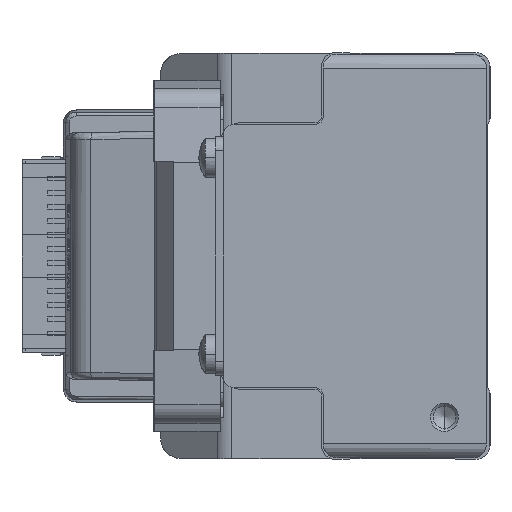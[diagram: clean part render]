
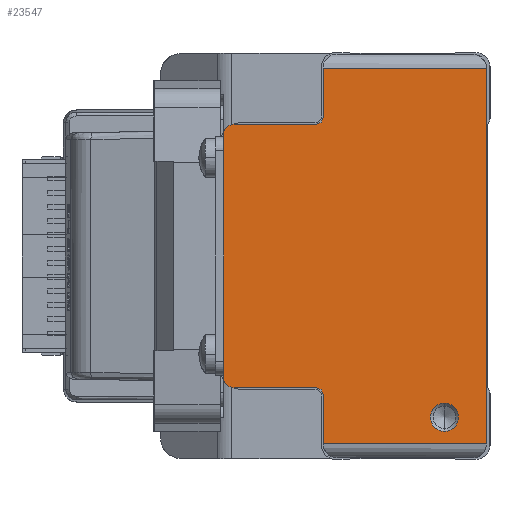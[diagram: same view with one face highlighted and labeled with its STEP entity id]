
A CAD part, left-side view. The second image highlights one B-rep face of the part: STEP entity #23547.
In plain terms, the highlighted planar face has unit normal (-1, 0, 0) as drawn and (0, 0, 1) by its records, which use the part's own axes.
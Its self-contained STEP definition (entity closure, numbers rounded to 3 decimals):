
#27 = ORIENTED_EDGE ( 'NONE', *, *, #42735, .T. ) ;
#492 = VERTEX_POINT ( 'NONE', #26947 ) ;
#592 = DIRECTION ( 'NONE',  ( 0., 0., -1. ) ) ;
#1318 = EDGE_CURVE ( 'NONE', #1828, #40674, #41951, .T. ) ;
#1828 = VERTEX_POINT ( 'NONE', #20294 ) ;
#2294 = DIRECTION ( 'NONE',  ( 0., -1., 0. ) ) ;
#2559 = EDGE_CURVE ( 'NONE', #492, #11047, #8257, .T. ) ;
#2671 = EDGE_CURVE ( 'NONE', #13649, #5589, #8998, .T. ) ;
#3736 = CARTESIAN_POINT ( 'NONE',  ( -23., 6.5, 870. ) ) ;
#4644 = LINE ( 'NONE', #24751, #22821 ) ;
#4747 = CIRCLE ( 'NONE', #5434, 1.5 ) ;
#5167 = CARTESIAN_POINT ( 'NONE',  ( -19.8, 24.8, 870. ) ) ;
#5434 = AXIS2_PLACEMENT_3D ( 'NONE', #9965, #33461, #29869 ) ;
#5589 = VERTEX_POINT ( 'NONE', #21310 ) ;
#5630 = FACE_OUTER_BOUND ( 'NONE', #38574, .T. ) ;
#6419 = VECTOR ( 'NONE', #16302, 1000. ) ;
#7315 = LINE ( 'NONE', #38208, #27107 ) ;
#7612 = CARTESIAN_POINT ( 'NONE',  ( 19.8, 24.8, 870. ) ) ;
#8257 = LINE ( 'NONE', #31554, #39043 ) ;
#8937 = PLANE ( 'NONE',  #42290 ) ;
#8998 = CIRCLE ( 'NONE', #26879, 1. ) ;
#9476 = AXIS2_PLACEMENT_3D ( 'NONE', #5167, #28830, #11825 ) ;
#9529 = EDGE_CURVE ( 'NONE', #26273, #5589, #16860, .T. ) ;
#9704 = ORIENTED_EDGE ( 'NONE', *, *, #36059, .T. ) ;
#9964 = AXIS2_PLACEMENT_3D ( 'NONE', #20053, #13366, #40482 ) ;
#9965 = CARTESIAN_POINT ( 'NONE',  ( 17.3, 36.5, 870. ) ) ;
#10251 = ORIENTED_EDGE ( 'NONE', *, *, #42948, .F. ) ;
#10767 = VERTEX_POINT ( 'NONE', #30239 ) ;
#11047 = VERTEX_POINT ( 'NONE', #29695 ) ;
#11825 = DIRECTION ( 'NONE',  ( 1., 0., 0. ) ) ;
#12467 = ORIENTED_EDGE ( 'NONE', *, *, #9529, .T. ) ;
#12799 = VERTEX_POINT ( 'NONE', #26048 ) ;
#13005 = CARTESIAN_POINT ( 'NONE',  ( -17.3, 36.5, 870. ) ) ;
#13366 = DIRECTION ( 'NONE',  ( 0., 0., -1. ) ) ;
#13649 = VERTEX_POINT ( 'NONE', #29256 ) ;
#13653 = CARTESIAN_POINT ( 'NONE',  ( -26.8, 0.5, 870. ) ) ;
#13673 = ORIENTED_EDGE ( 'NONE', *, *, #15281, .T. ) ;
#13786 = DIRECTION ( 'NONE',  ( -1., 0., 0. ) ) ;
#14197 = DIRECTION ( 'NONE',  ( -1., 0., 0. ) ) ;
#14269 = CIRCLE ( 'NONE', #9964, 2. ) ;
#14624 = CARTESIAN_POINT ( 'NONE',  ( 18.8, 36.5, 870. ) ) ;
#14865 = DIRECTION ( 'NONE',  ( 0., 0., 1. ) ) ;
#15281 = EDGE_CURVE ( 'NONE', #44280, #492, #35960, .T. ) ;
#15710 = DIRECTION ( 'NONE',  ( 1., 0., 0. ) ) ;
#15805 = EDGE_CURVE ( 'NONE', #24374, #10767, #20295, .T. ) ;
#16302 = DIRECTION ( 'NONE',  ( 0., 1., 0. ) ) ;
#16860 = LINE ( 'NONE', #41292, #44206 ) ;
#17419 = EDGE_CURVE ( 'NONE', #36663, #25900, #22421, .T. ) ;
#19186 = ORIENTED_EDGE ( 'NONE', *, *, #1318, .T. ) ;
#19373 = CARTESIAN_POINT ( 'NONE',  ( -25., 6.5, 870. ) ) ;
#20053 = CARTESIAN_POINT ( 'NONE',  ( -23., 6.5, 870. ) ) ;
#20294 = CARTESIAN_POINT ( 'NONE',  ( -21., 6.5, 870. ) ) ;
#20295 = LINE ( 'NONE', #33986, #40349 ) ;
#20520 = EDGE_CURVE ( 'NONE', #13649, #26375, #23024, .T. ) ;
#21198 = ORIENTED_EDGE ( 'NONE', *, *, #33054, .T. ) ;
#21310 = CARTESIAN_POINT ( 'NONE',  ( 19.8, 23.8, 870. ) ) ;
#21634 = CIRCLE ( 'NONE', #9476, 1. ) ;
#21766 = LINE ( 'NONE', #33346, #34693 ) ;
#22421 = LINE ( 'NONE', #32290, #35131 ) ;
#22769 = ORIENTED_EDGE ( 'NONE', *, *, #28755, .F. ) ;
#22793 = ORIENTED_EDGE ( 'NONE', *, *, #23546, .T. ) ;
#22819 = DIRECTION ( 'NONE',  ( 1., 0., 0. ) ) ;
#22821 = VECTOR ( 'NONE', #31896, 1000. ) ;
#23024 = LINE ( 'NONE', #33325, #6419 ) ;
#23043 = FACE_BOUND ( 'NONE', #40089, .T. ) ;
#23546 = EDGE_CURVE ( 'NONE', #10767, #36663, #21766, .T. ) ;
#23547 = ADVANCED_FACE ( 'NONE', ( #23043, #5630 ), #8937, .T. ) ;
#24374 = VERTEX_POINT ( 'NONE', #36319 ) ;
#24751 = CARTESIAN_POINT ( 'NONE',  ( 26.8, 24., 870. ) ) ;
#25361 = CARTESIAN_POINT ( 'NONE',  ( -17.3, 38., 870. ) ) ;
#25900 = VERTEX_POINT ( 'NONE', #41337 ) ;
#26048 = CARTESIAN_POINT ( 'NONE',  ( 17.3, 38., 870. ) ) ;
#26273 = VERTEX_POINT ( 'NONE', #35227 ) ;
#26375 = VERTEX_POINT ( 'NONE', #14624 ) ;
#26879 = AXIS2_PLACEMENT_3D ( 'NONE', #7612, #27756, #34938 ) ;
#26947 = CARTESIAN_POINT ( 'NONE',  ( -18.8, 36.5, 870. ) ) ;
#27107 = VECTOR ( 'NONE', #27884, 1000. ) ;
#27756 = DIRECTION ( 'NONE',  ( 0., 0., 1. ) ) ;
#27884 = DIRECTION ( 'NONE',  ( -1., 0., 0. ) ) ;
#28179 = ORIENTED_EDGE ( 'NONE', *, *, #2559, .T. ) ;
#28755 = EDGE_CURVE ( 'NONE', #24374, #11047, #21634, .T. ) ;
#28830 = DIRECTION ( 'NONE',  ( 0., 0., 1. ) ) ;
#29256 = CARTESIAN_POINT ( 'NONE',  ( 18.8, 24.8, 870. ) ) ;
#29695 = CARTESIAN_POINT ( 'NONE',  ( -18.8, 24.8, 870. ) ) ;
#29702 = AXIS2_PLACEMENT_3D ( 'NONE', #3736, #592, #13786 ) ;
#29869 = DIRECTION ( 'NONE',  ( 1., 0., 0. ) ) ;
#30219 = ORIENTED_EDGE ( 'NONE', *, *, #15805, .T. ) ;
#30239 = CARTESIAN_POINT ( 'NONE',  ( -26.8, 23.8, 870. ) ) ;
#30579 = DIRECTION ( 'NONE',  ( -1., 0., 0. ) ) ;
#31554 = CARTESIAN_POINT ( 'NONE',  ( -18.8, 36.5, 870. ) ) ;
#31896 = DIRECTION ( 'NONE',  ( 0., -1., 0. ) ) ;
#32290 = CARTESIAN_POINT ( 'NONE',  ( -26.8, 0.5, 870. ) ) ;
#33054 = EDGE_CURVE ( 'NONE', #26375, #12799, #4747, .T. ) ;
#33148 = ORIENTED_EDGE ( 'NONE', *, *, #20520, .T. ) ;
#33325 = CARTESIAN_POINT ( 'NONE',  ( 18.8, 24.8, 870. ) ) ;
#33346 = CARTESIAN_POINT ( 'NONE',  ( -26.8, 24., 870. ) ) ;
#33461 = DIRECTION ( 'NONE',  ( 0., 0., 1. ) ) ;
#33504 = ORIENTED_EDGE ( 'NONE', *, *, #2671, .F. ) ;
#33986 = CARTESIAN_POINT ( 'NONE',  ( -19.8, 23.8, 870. ) ) ;
#34693 = VECTOR ( 'NONE', #2294, 1000. ) ;
#34938 = DIRECTION ( 'NONE',  ( 1., 0., 0. ) ) ;
#35131 = VECTOR ( 'NONE', #15710, 1000. ) ;
#35227 = CARTESIAN_POINT ( 'NONE',  ( 26.8, 23.8, 870. ) ) ;
#35960 = CIRCLE ( 'NONE', #39556, 1.5 ) ;
#36059 = EDGE_CURVE ( 'NONE', #12799, #44280, #7315, .T. ) ;
#36267 = DIRECTION ( 'NONE',  ( 1., 0., 0. ) ) ;
#36319 = CARTESIAN_POINT ( 'NONE',  ( -19.8, 23.8, 870. ) ) ;
#36663 = VERTEX_POINT ( 'NONE', #13653 ) ;
#36719 = CARTESIAN_POINT ( 'NONE',  ( -26.8, 21.8, 870. ) ) ;
#38208 = CARTESIAN_POINT ( 'NONE',  ( 17.3, 38., 870. ) ) ;
#38515 = DIRECTION ( 'NONE',  ( 0., -1., 0. ) ) ;
#38574 = EDGE_LOOP ( 'NONE', ( #28179, #22769, #30219, #22793, #41434, #10251, #12467, #33504, #33148, #21198, #9704, #13673 ) ) ;
#39043 = VECTOR ( 'NONE', #38515, 1000. ) ;
#39556 = AXIS2_PLACEMENT_3D ( 'NONE', #13005, #40784, #36267 ) ;
#40089 = EDGE_LOOP ( 'NONE', ( #27, #19186 ) ) ;
#40349 = VECTOR ( 'NONE', #30579, 1000. ) ;
#40482 = DIRECTION ( 'NONE',  ( -1., 0., 0. ) ) ;
#40674 = VERTEX_POINT ( 'NONE', #19373 ) ;
#40784 = DIRECTION ( 'NONE',  ( 0., 0., 1. ) ) ;
#41292 = CARTESIAN_POINT ( 'NONE',  ( 26.8, 23.8, 870. ) ) ;
#41337 = CARTESIAN_POINT ( 'NONE',  ( 26.8, 0.5, 870. ) ) ;
#41434 = ORIENTED_EDGE ( 'NONE', *, *, #17419, .T. ) ;
#41951 = CIRCLE ( 'NONE', #29702, 2. ) ;
#42290 = AXIS2_PLACEMENT_3D ( 'NONE', #36719, #14865, #22819 ) ;
#42735 = EDGE_CURVE ( 'NONE', #40674, #1828, #14269, .T. ) ;
#42948 = EDGE_CURVE ( 'NONE', #26273, #25900, #4644, .T. ) ;
#44206 = VECTOR ( 'NONE', #14197, 1000. ) ;
#44280 = VERTEX_POINT ( 'NONE', #25361 ) ;
